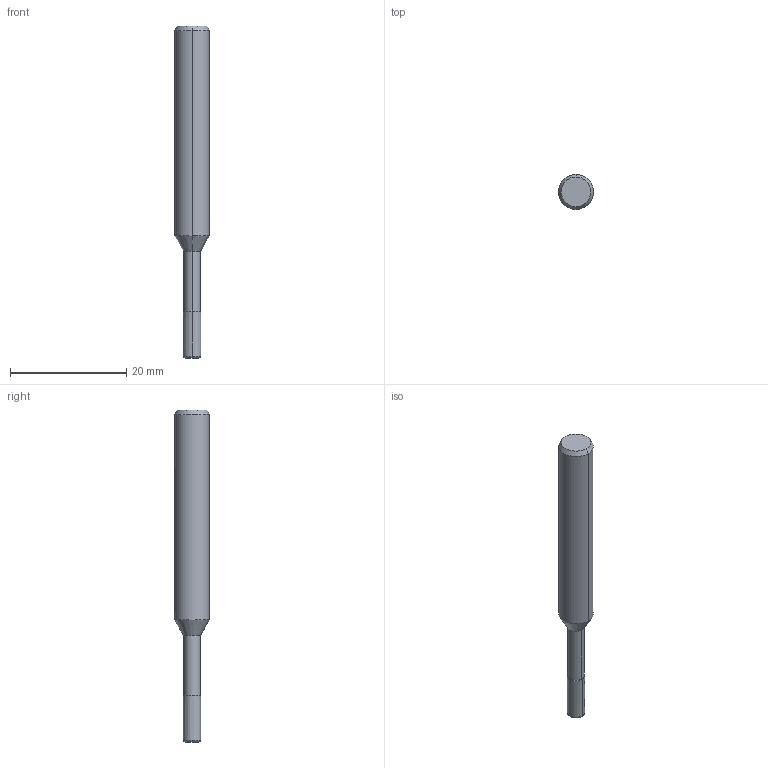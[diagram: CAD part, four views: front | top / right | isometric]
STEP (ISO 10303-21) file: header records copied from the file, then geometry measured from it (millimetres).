
FILE_DESCRIPTION(('no description'),'unknown implementation level');
FILE_NAME('solid4r1j2DKbLMO0ceTOC9_pfhGgogU_1.STP',' ',('CIMSOURCE GmbH'),('CADClick - KiM GmbH - www.kimweb.de'),'unknown preprocess','ACIS','unknown authorization');
FILE_SCHEMA(('automotive_design'));
Length unit declared in the file: millimetre
Products named in the file (2): NOCUT; CUT
Bounding box: 6 x 6 x 57 mm (x, y, z)
Volume: 1182.3 mm3; surface area: 1004.9 mm2
Topology: 2 solids, 2 shells, 42 faces, 95 edges, 58 vertices
Faces by surface type: cylinder 16, cone 14, plane 10, torus 2
Entity records: 2528 total; most frequent: CARTESIAN_POINT 417, DIRECTION 217, STYLED_ITEM 197, PRESENTATION_STYLE_ASSIGNMENT 197, COLOUR_RGB 197, ORIENTED_EDGE 190, EDGE_CURVE 95, CURVE_STYLE 95
